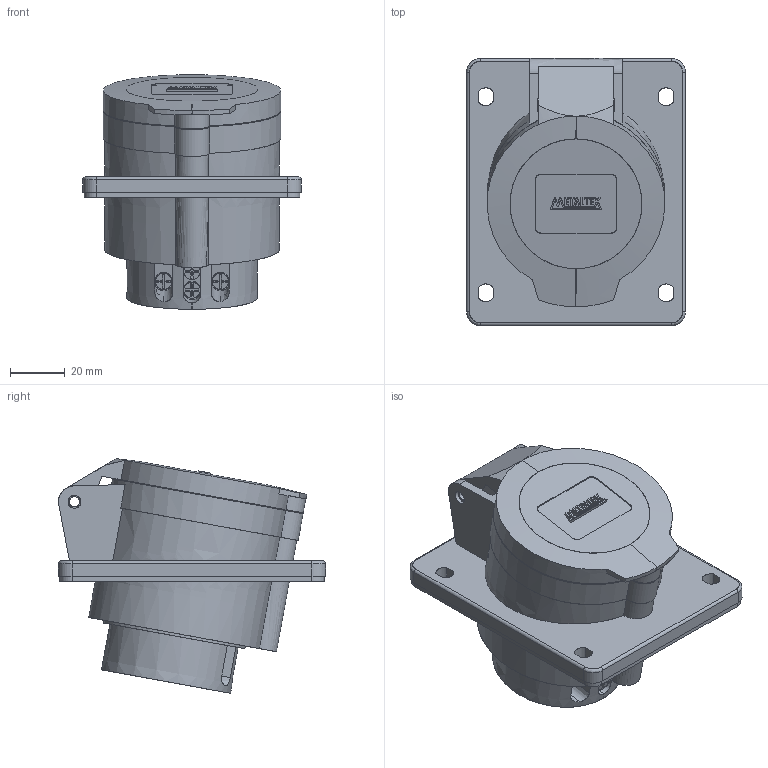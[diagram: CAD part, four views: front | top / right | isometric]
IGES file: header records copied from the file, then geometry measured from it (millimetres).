
Start section: SolidWorks IGES file using analytic representation for surfaces
Global section: file name: D:\X - Arquivos\PROEX\Empresas\P11 - METALTEX\01 - Produtos\IGES\4ª remessa\3ª etapa\TLI32432.IGS; native system: SolidWorks 2012; preprocessor: SolidWorks 2012; author: Usuario; date: 180418.161502; units: millimetre
Bounding box: 80 x 97.8 x 85.9 mm (x, y, z)
Surface area: 40556.6 mm2 (no closed solid volume)
Topology: 0 solids, 0 shells, 369 faces, 5060 edges, 5060 vertices
Faces by surface type: bspline 256, revolution 113
